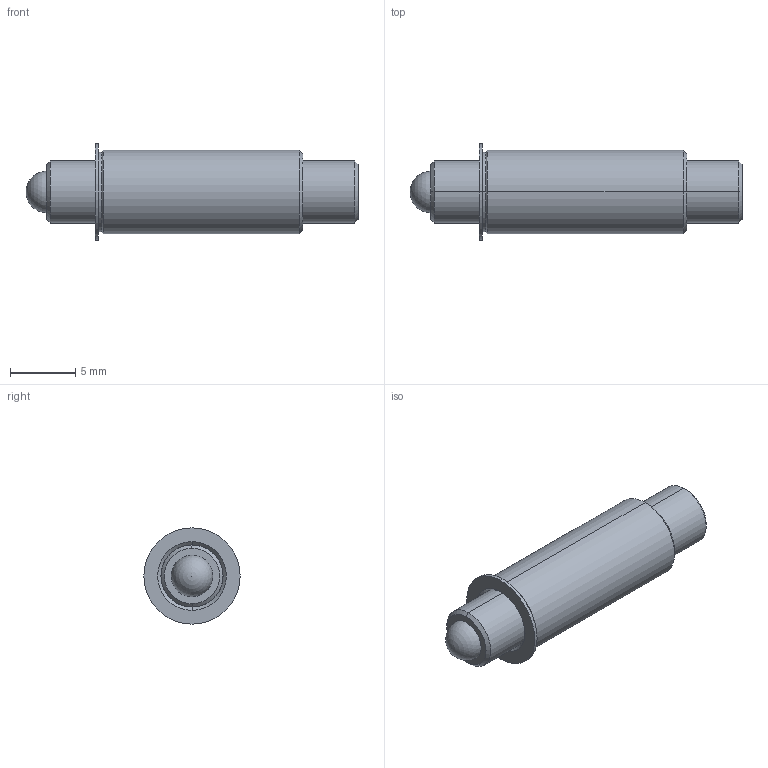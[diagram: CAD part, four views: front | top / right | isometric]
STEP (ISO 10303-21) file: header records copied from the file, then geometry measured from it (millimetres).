
FILE_DESCRIPTION (( 'STEP AP214' ), '1' );
FILE_NAME ('TSB187-100-1000_625.STEP', '2013-03-13T13:22:15', ( 'workpc' ), ( 'Microsoft' ), 'SwSTEP 2.0', 'SolidWorks 2013', '' );
FILE_SCHEMA (( 'AUTOMOTIVE_DESIGN' ));
Length unit declared in the file: inch
Products named in the file (1): TSB187-100-1000_625
Bounding box: 25.4 x 7.37 x 7.37 mm (x, y, z)
Surface area: 1023 mm2 (no closed solid volume)
Topology: 0 solids, 3 shells, 35 faces, 79 edges, 49 vertices
Faces by surface type: cone 12, plane 11, cylinder 10, sphere 2
Entity records: 1418 total; most frequent: DIRECTION 180, CARTESIAN_POINT 156, ORIENTED_EDGE 140, EDGE_CURVE 74, AXIS2_PLACEMENT_3D 70, VERTEX_POINT 46, VECTOR 40, EDGE_LOOP 40
